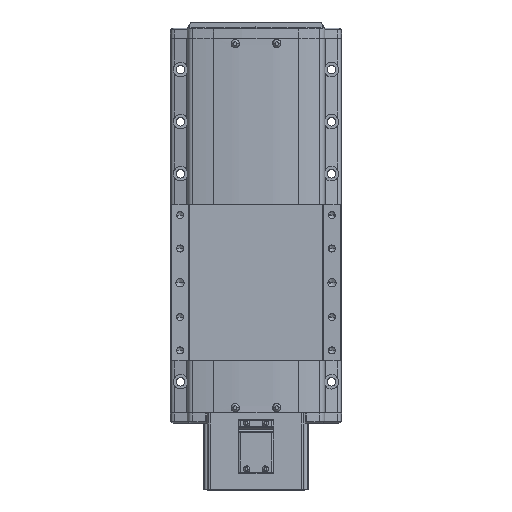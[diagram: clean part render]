
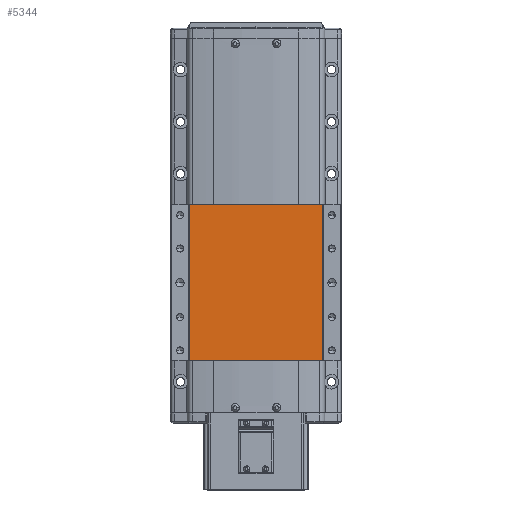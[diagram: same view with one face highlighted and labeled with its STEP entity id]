
A CAD part, top view. The second image highlights one B-rep face of the part: STEP entity #5344.
In plain terms, the highlighted planar face has unit normal (0, 0, 1).
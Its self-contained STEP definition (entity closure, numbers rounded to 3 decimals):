
#5344=ADVANCED_FACE('',(#12385),#12386,.F.);
#12385=FACE_OUTER_BOUND('',#22187,.T.);
#12386=PLANE('',#22188);
#22187=EDGE_LOOP('',(#38946,#38947,#38948,#38949));
#22188=AXIS2_PLACEMENT_3D('',#38950,#38951,#38952);
#38946=ORIENTED_EDGE('',*,*,#62017,.F.);
#38947=ORIENTED_EDGE('',*,*,#62018,.F.);
#38948=ORIENTED_EDGE('',*,*,#62019,.F.);
#38949=ORIENTED_EDGE('',*,*,#62020,.T.);
#38950=CARTESIAN_POINT('',(-600.,322.222,51.5));
#38951=DIRECTION('',(0.,0.,-1.0));
#38952=DIRECTION('',(-1.0,0.,0.));
#62017=EDGE_CURVE('',#75669,#75670,#75671,.T.);
#62018=EDGE_CURVE('',#75672,#75669,#75673,.T.);
#62019=EDGE_CURVE('',#75674,#75672,#75675,.T.);
#62020=EDGE_CURVE('',#75674,#75670,#75676,.T.);
#75669=VERTEX_POINT('',#94187);
#75670=VERTEX_POINT('',#94188);
#75671=LINE('',#94189,#94190);
#75672=VERTEX_POINT('',#94191);
#75673=LINE('',#94192,#94193);
#75674=VERTEX_POINT('',#94194);
#75675=LINE('',#94195,#94196);
#75676=LINE('',#94197,#94198);
#94187=CARTESIAN_POINT('',(-664.376,472.222,51.5));
#94188=CARTESIAN_POINT('',(-535.624,472.222,51.5));
#94189=CARTESIAN_POINT('',(-535.624,472.222,51.5));
#94190=VECTOR('',#111469,10.0);
#94191=CARTESIAN_POINT('',(-664.376,322.222,51.5));
#94192=CARTESIAN_POINT('',(-664.376,322.222,51.5));
#94193=VECTOR('',#111470,10.0);
#94194=CARTESIAN_POINT('',(-535.624,322.222,51.5));
#94195=CARTESIAN_POINT('',(-535.624,322.222,51.5));
#94196=VECTOR('',#111471,10.0);
#94197=CARTESIAN_POINT('',(-535.624,322.222,51.5));
#94198=VECTOR('',#111472,10.0);
#111469=DIRECTION('',(1.0,0.,0.));
#111470=DIRECTION('',(0.,1.0,0.));
#111471=DIRECTION('',(-1.0,0.,0.));
#111472=DIRECTION('',(0.,1.0,0.));
